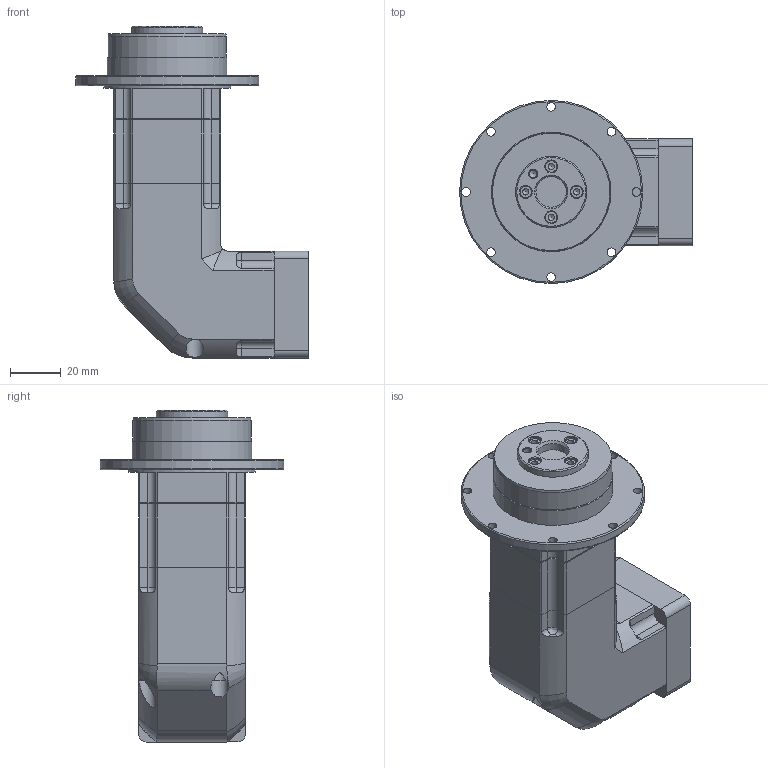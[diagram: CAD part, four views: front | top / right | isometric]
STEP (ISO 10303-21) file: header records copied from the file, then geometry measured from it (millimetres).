
FILE_DESCRIPTION((''),'2;1');
FILE_NAME('C:\Documents and Settings\nagyu\바탕 화면\유성감속기 3D\SPLF042\SPLF042S020~100FA.stp','2009-10-27T09:44:27',('nagyu'),(''),'Autodesk Inventor 2010','Autodesk Inventor 2010','');
FILE_SCHEMA(('AUTOMOTIVE_DESIGN { 1 0 10303 214 1 1 1 1 }'));
Length unit declared in the file: millimetre
Products named in the file (5): SPLF042 2단; SPIF042; 42각 INPUT ADAPTER FLANGE; 42각 GEARCASE; 42각 CARRIER CASE
Assembly tree (4 placements, depth 2):
  SPLF042 2단
    SPIF042
    42각 INPUT ADAPTER FLANGE
    42각 GEARCASE
    42각 CARRIER CASE
Bounding box: 91.5 x 72 x 130.5 mm (x, y, z)
Volume: 221898.6 mm3; surface area: 55266 mm2
Topology: 4 solids, 4 shells, 304 faces, 776 edges, 499 vertices
Faces by surface type: plane 116, cylinder 89, bspline 70, cone 27, torus 2
Full cylindrical faces by diameter (mm): 3.4 x8, 5.9 x2, 6 x2, 8 x1, 15 x1, 28 x1, 32 x2, 37 x2, 38 x1, 46.5 x1, 47 x1, 50 x1, 72 x1
Entity records: 10098 total; most frequent: CARTESIAN_POINT 3241, DIRECTION 1329, ORIENTED_EDGE 1300, EDGE_CURVE 650, AXIS2_PLACEMENT_3D 524, VERTEX_POINT 458, EDGE_LOOP 438, FACE_OUTER_BOUND 304
